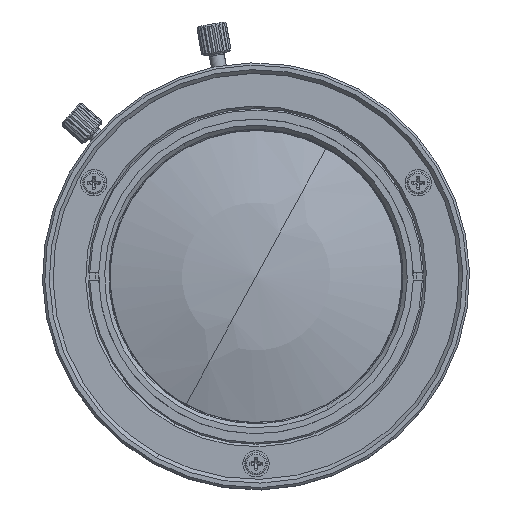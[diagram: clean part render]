
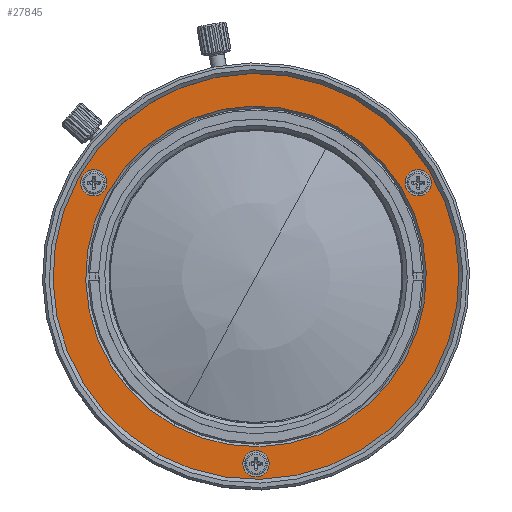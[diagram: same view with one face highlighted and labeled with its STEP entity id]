
A CAD part, top view. The second image highlights one B-rep face of the part: STEP entity #27845.
In plain terms, the highlighted planar face has unit normal (0, 0, 1).
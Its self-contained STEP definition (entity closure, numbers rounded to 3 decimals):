
#27730=CARTESIAN_POINT('Vertex',(-13.184,-24.134,109.2)) ;
#27733=CARTESIAN_POINT('Axis2P3D Location',(0.,0.,109.2)) ;
#27737=CARTESIAN_POINT('Vertex',(13.184,24.134,109.2)) ;
#27752=CARTESIAN_POINT('Axis2P3D Location',(0.,0.,109.2)) ;
#27764=CARTESIAN_POINT('Axis2P3D Location',(0.,22.23,109.2)) ;
#27773=CARTESIAN_POINT('Axis2P3D Location',(0.,0.,109.2)) ;
#27777=CARTESIAN_POINT('Vertex',(10.897,19.947,109.2)) ;
#27779=CARTESIAN_POINT('Vertex',(-10.897,-19.947,109.2)) ;
#27782=CARTESIAN_POINT('Axis2P3D Location',(0.,0.,109.2)) ;
#27791=CARTESIAN_POINT('Axis2P3D Location',(0.,-25.,109.2)) ;
#27795=CARTESIAN_POINT('Vertex',(-1.75,-25.,109.2)) ;
#27797=CARTESIAN_POINT('Vertex',(1.75,-25.,109.2)) ;
#27800=CARTESIAN_POINT('Axis2P3D Location',(0.,-25.,109.2)) ;
#27809=CARTESIAN_POINT('Axis2P3D Location',(21.651,12.5,109.2)) ;
#27813=CARTESIAN_POINT('Vertex',(22.526,10.984,109.2)) ;
#27815=CARTESIAN_POINT('Vertex',(20.776,14.016,109.2)) ;
#27818=CARTESIAN_POINT('Axis2P3D Location',(21.651,12.5,109.2)) ;
#27827=CARTESIAN_POINT('Axis2P3D Location',(-21.651,12.5,109.2)) ;
#27831=CARTESIAN_POINT('Vertex',(-20.776,14.016,109.2)) ;
#27833=CARTESIAN_POINT('Vertex',(-22.526,10.984,109.2)) ;
#27836=CARTESIAN_POINT('Axis2P3D Location',(-21.651,12.5,109.2)) ;
#27734=DIRECTION('Axis2P3D Direction',(0.,0.,-1.)) ;
#27753=DIRECTION('Axis2P3D Direction',(0.,0.,-1.)) ;
#27765=DIRECTION('Axis2P3D Direction',(0.,0.,-1.)) ;
#27766=DIRECTION('Axis2P3D XDirection',(1.,0.,0.)) ;
#27774=DIRECTION('Axis2P3D Direction',(0.,0.,-1.)) ;
#27783=DIRECTION('Axis2P3D Direction',(0.,0.,-1.)) ;
#27792=DIRECTION('Axis2P3D Direction',(0.,0.,-1.)) ;
#27801=DIRECTION('Axis2P3D Direction',(0.,0.,-1.)) ;
#27810=DIRECTION('Axis2P3D Direction',(0.,0.,-1.)) ;
#27819=DIRECTION('Axis2P3D Direction',(0.,0.,-1.)) ;
#27828=DIRECTION('Axis2P3D Direction',(0.,0.,-1.)) ;
#27837=DIRECTION('Axis2P3D Direction',(0.,0.,-1.)) ;
#27735=AXIS2_PLACEMENT_3D('Circle Axis2P3D',#27733,#27734,$) ;
#27754=AXIS2_PLACEMENT_3D('Circle Axis2P3D',#27752,#27753,$) ;
#27767=AXIS2_PLACEMENT_3D('Plane Axis2P3D',#27764,#27765,#27766) ;
#27775=AXIS2_PLACEMENT_3D('Circle Axis2P3D',#27773,#27774,$) ;
#27784=AXIS2_PLACEMENT_3D('Circle Axis2P3D',#27782,#27783,$) ;
#27793=AXIS2_PLACEMENT_3D('Circle Axis2P3D',#27791,#27792,$) ;
#27802=AXIS2_PLACEMENT_3D('Circle Axis2P3D',#27800,#27801,$) ;
#27811=AXIS2_PLACEMENT_3D('Circle Axis2P3D',#27809,#27810,$) ;
#27820=AXIS2_PLACEMENT_3D('Circle Axis2P3D',#27818,#27819,$) ;
#27829=AXIS2_PLACEMENT_3D('Circle Axis2P3D',#27827,#27828,$) ;
#27838=AXIS2_PLACEMENT_3D('Circle Axis2P3D',#27836,#27837,$) ;
#27770=ORIENTED_EDGE('',*,*,#27756,.F.) ;
#27771=ORIENTED_EDGE('',*,*,#27739,.F.) ;
#27788=ORIENTED_EDGE('',*,*,#27781,.T.) ;
#27789=ORIENTED_EDGE('',*,*,#27786,.T.) ;
#27806=ORIENTED_EDGE('',*,*,#27799,.T.) ;
#27807=ORIENTED_EDGE('',*,*,#27804,.T.) ;
#27824=ORIENTED_EDGE('',*,*,#27817,.T.) ;
#27825=ORIENTED_EDGE('',*,*,#27822,.T.) ;
#27842=ORIENTED_EDGE('',*,*,#27835,.T.) ;
#27843=ORIENTED_EDGE('',*,*,#27840,.T.) ;
#27790=FACE_BOUND('',#27787,.T.) ;
#27808=FACE_BOUND('',#27805,.T.) ;
#27826=FACE_BOUND('',#27823,.T.) ;
#27844=FACE_BOUND('',#27841,.T.) ;
#27845=ADVANCED_FACE('\X2\FF8AFF9FFF70FF82\X0\ \X2\FF8EFF9EFF83FF9EFF68FF70\X0\',(#27772,#27790,#27808,#27826,#27844),#27768,.F.) ;
#27736=CIRCLE('generated circle',#27735,27.5) ;
#27755=CIRCLE('generated circle',#27754,27.5) ;
#27776=CIRCLE('generated circle',#27775,22.73) ;
#27785=CIRCLE('generated circle',#27784,22.73) ;
#27794=CIRCLE('generated circle',#27793,1.75) ;
#27803=CIRCLE('generated circle',#27802,1.75) ;
#27812=CIRCLE('generated circle',#27811,1.75) ;
#27821=CIRCLE('generated circle',#27820,1.75) ;
#27830=CIRCLE('generated circle',#27829,1.75) ;
#27839=CIRCLE('generated circle',#27838,1.75) ;
#27739=EDGE_CURVE('',#27731,#27738,#27736,.T.) ;
#27756=EDGE_CURVE('',#27738,#27731,#27755,.T.) ;
#27781=EDGE_CURVE('',#27778,#27780,#27776,.T.) ;
#27786=EDGE_CURVE('',#27780,#27778,#27785,.T.) ;
#27799=EDGE_CURVE('',#27796,#27798,#27794,.T.) ;
#27804=EDGE_CURVE('',#27798,#27796,#27803,.T.) ;
#27817=EDGE_CURVE('',#27814,#27816,#27812,.T.) ;
#27822=EDGE_CURVE('',#27816,#27814,#27821,.T.) ;
#27835=EDGE_CURVE('',#27832,#27834,#27830,.T.) ;
#27840=EDGE_CURVE('',#27834,#27832,#27839,.T.) ;
#27769=EDGE_LOOP('',(#27770,#27771)) ;
#27787=EDGE_LOOP('',(#27788,#27789)) ;
#27805=EDGE_LOOP('',(#27806,#27807)) ;
#27823=EDGE_LOOP('',(#27824,#27825)) ;
#27841=EDGE_LOOP('',(#27842,#27843)) ;
#27772=FACE_OUTER_BOUND('',#27769,.T.) ;
#27768=PLANE('Plane',#27767) ;
#27731=VERTEX_POINT('',#27730) ;
#27738=VERTEX_POINT('',#27737) ;
#27778=VERTEX_POINT('',#27777) ;
#27780=VERTEX_POINT('',#27779) ;
#27796=VERTEX_POINT('',#27795) ;
#27798=VERTEX_POINT('',#27797) ;
#27814=VERTEX_POINT('',#27813) ;
#27816=VERTEX_POINT('',#27815) ;
#27832=VERTEX_POINT('',#27831) ;
#27834=VERTEX_POINT('',#27833) ;
